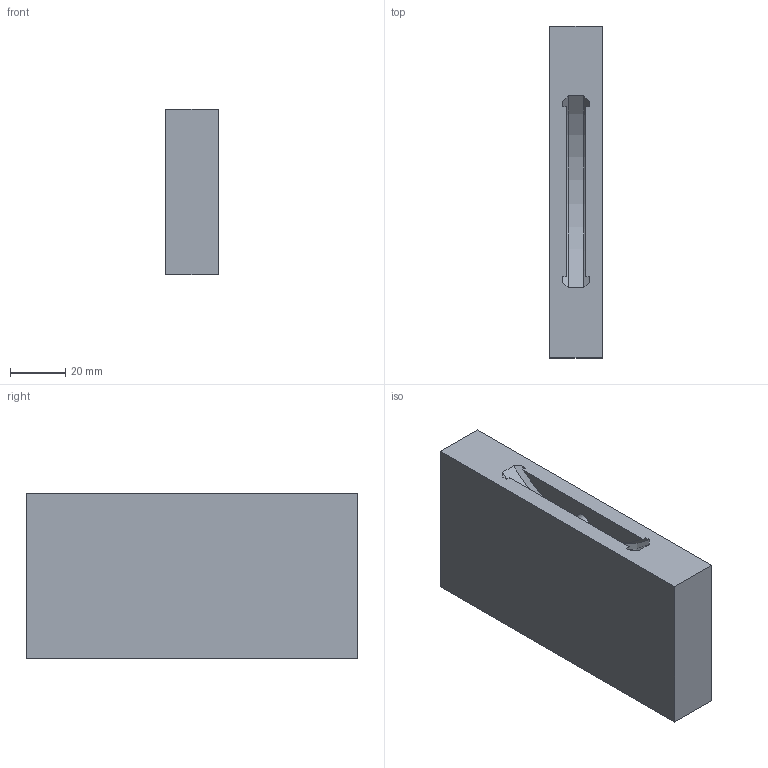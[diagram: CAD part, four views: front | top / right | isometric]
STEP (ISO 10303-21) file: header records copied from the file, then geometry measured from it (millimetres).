
FILE_DESCRIPTION(/* description */ ('Unknown'),/* implementation_level */ '2;1');
FILE_NAME(/* name */ 'Profilnut_Kante_Flächenbohrung',/* time_stamp */ '2023-06-26T09:42:56+02:00',/* author */ ('Unknown'),/* organization */ ('Unknown'),/* preprocessor_version */ 'ST-DEVELOPER v16.7',/* originating_system */ 'Solid Edge',/* authorisation */ 'Unknown');
FILE_SCHEMA (('AUTOMOTIVE_DESIGN {1 0 10303 214 3 1 1}'));
Length unit declared in the file: millimetre
Products named in the file (1): Profilnut_Kante_Flächenbohrung
Bounding box: 19 x 120 x 60 mm (x, y, z)
Volume: 131545.2 mm3; surface area: 22972.1 mm2
Topology: 1 solids, 1 shells, 18 faces, 43 edges, 29 vertices
Faces by surface type: plane 11, cylinder 5, cone 2
Full cylindrical faces by diameter (mm): 6 x2
Entity records: 548 total; most frequent: CARTESIAN_POINT 99, DIRECTION 86, ORIENTED_EDGE 80, EDGE_CURVE 40, AXIS2_PLACEMENT_3D 31, VERTEX_POINT 28, LINE 24, VECTOR 24
